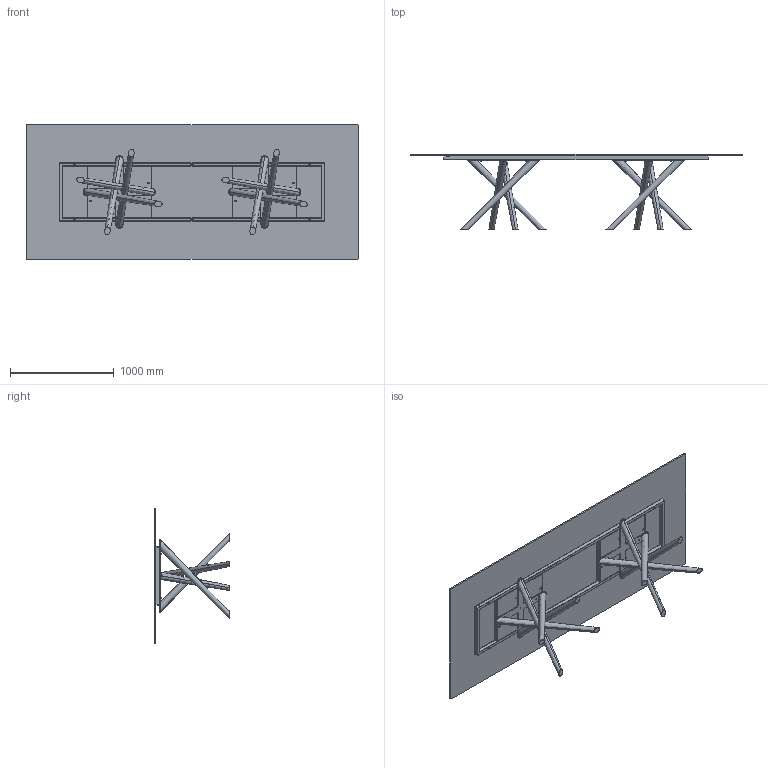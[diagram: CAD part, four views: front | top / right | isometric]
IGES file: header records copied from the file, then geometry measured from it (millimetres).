
Start section: SolidWorks IGES file using analytic representation for surfaces
Global section: file name: Y:\eforma\TECNICO\SOLIDWORKS\E-FORMA\1-TAVOLI\BALY\02 parts\BA25G.IGS; native system: SolidWorks 2022; preprocessor: SolidWorks 2022; author: eforma.tech; date: 240808.080837; units: millimetre
Bounding box: 3200 x 730 x 1300 mm (x, y, z)
Volume: 71834308.9 mm3; surface area: 14878844.3 mm2
Topology: 54 solids, 54 shells, 1032 faces, 2334 edges, 1396 vertices
Faces by surface type: revolution 582, plane 434, bspline 16
